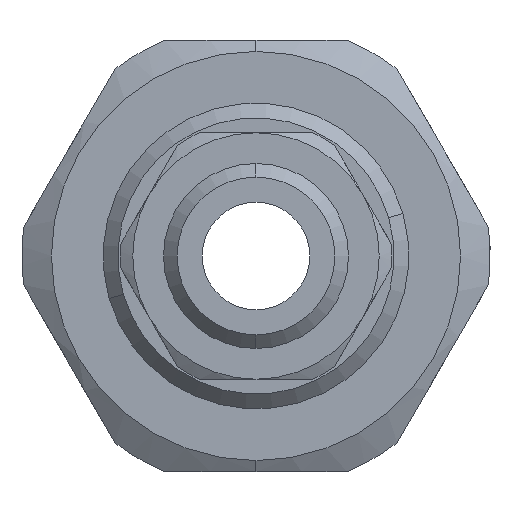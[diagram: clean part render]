
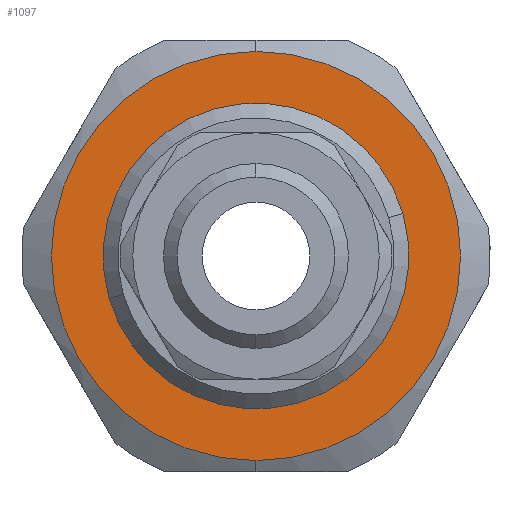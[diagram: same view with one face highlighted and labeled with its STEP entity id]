
A CAD part, left-side view. The second image highlights one B-rep face of the part: STEP entity #1097.
In plain terms, the highlighted planar face has unit normal (-1, 0, 0).
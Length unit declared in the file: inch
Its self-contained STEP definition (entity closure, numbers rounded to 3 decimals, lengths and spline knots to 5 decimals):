
#413 = ORIENTED_EDGE ( 'NONE', *, *, #2706, .T. ) ;
#415 = ORIENTED_EDGE ( 'NONE', *, *, #2707, .F. ) ;
#416 = ORIENTED_EDGE ( 'NONE', *, *, #3959, .T. ) ;
#417 = ORIENTED_EDGE ( 'NONE', *, *, #1700, .F. ) ;
#543 = CARTESIAN_POINT ( 'NONE',  ( 0.47156, -1.1499, 0.57971 ) ) ;
#544 = DIRECTION ( 'NONE',  ( -1., 0., 0. ) ) ;
#545 = DIRECTION ( 'NONE',  ( 0., 0., 1. ) ) ;
#579 = CARTESIAN_POINT ( 'NONE',  ( 0.47156, -1.1499, 0.57971 ) ) ;
#580 = DIRECTION ( 'NONE',  ( -1., 0., 0. ) ) ;
#581 = DIRECTION ( 'NONE',  ( 0., 0., 1. ) ) ;
#741 = AXIS2_PLACEMENT_3D ( 'NONE', #543, #544, #545 ) ;
#832 = AXIS2_PLACEMENT_3D ( 'NONE', #2457, #2464, #2465 ) ;
#906 = CIRCLE ( 'NONE', #741, 0.31 ) ;
#1097 = ADVANCED_FACE ( 'NONE', ( #2461, #2443 ), #2462, .T. ) ;
#1323 = EDGE_LOOP ( 'NONE', ( #413, #416 ) ) ;
#1700 = EDGE_CURVE ( 'NONE', #2804, #2541, #906, .T. ) ;
#2284 = CARTESIAN_POINT ( 'NONE',  ( 0.47156, -1.1499, 0.57971 ) ) ;
#2285 = DIRECTION ( 'NONE',  ( -1., 0., 0. ) ) ;
#2286 = DIRECTION ( 'NONE',  ( 0., 0., 1. ) ) ;
#2287 = CARTESIAN_POINT ( 'NONE',  ( 0.47156, -1.1499, 0.57971 ) ) ;
#2288 = DIRECTION ( 'NONE',  ( -1., 0., 0. ) ) ;
#2289 = DIRECTION ( 'NONE',  ( 0., 0., 1. ) ) ;
#2443 = FACE_BOUND ( 'NONE', #3554, .T. ) ;
#2457 = CARTESIAN_POINT ( 'NONE',  ( 0.47156, -1.1499, 0.57971 ) ) ;
#2461 = FACE_OUTER_BOUND ( 'NONE', #1323, .T. ) ;
#2462 = PLANE ( 'NONE',  #832 ) ;
#2464 = DIRECTION ( 'NONE',  ( -1., 0., 0. ) ) ;
#2465 = DIRECTION ( 'NONE',  ( 0., 0., 1. ) ) ;
#2541 = VERTEX_POINT ( 'NONE', #3022 ) ;
#2553 = VERTEX_POINT ( 'NONE', #3034 ) ;
#2566 = VERTEX_POINT ( 'NONE', #3047 ) ;
#2706 = EDGE_CURVE ( 'NONE', #2566, #2553, #3901, .T. ) ;
#2707 = EDGE_CURVE ( 'NONE', #2541, #2804, #3880, .T. ) ;
#2804 = VERTEX_POINT ( 'NONE', #3254 ) ;
#3022 = CARTESIAN_POINT ( 'NONE',  ( 0.47156, -0.85206, 0.49373 ) ) ;
#3034 = CARTESIAN_POINT ( 'NONE',  ( 0.47156, -1.1499, 0.16471 ) ) ;
#3047 = CARTESIAN_POINT ( 'NONE',  ( 0.47156, -1.1499, 0.99471 ) ) ;
#3254 = CARTESIAN_POINT ( 'NONE',  ( 0.47156, -1.44774, 0.66568 ) ) ;
#3554 = EDGE_LOOP ( 'NONE', ( #415, #417 ) ) ;
#3880 = CIRCLE ( 'NONE', #3891, 0.31 ) ;
#3891 = AXIS2_PLACEMENT_3D ( 'NONE', #2287, #2288, #2289 ) ;
#3901 = CIRCLE ( 'NONE', #3921, 0.415 ) ;
#3913 = CIRCLE ( 'NONE', #3940, 0.415 ) ;
#3921 = AXIS2_PLACEMENT_3D ( 'NONE', #2284, #2285, #2286 ) ;
#3940 = AXIS2_PLACEMENT_3D ( 'NONE', #579, #580, #581 ) ;
#3959 = EDGE_CURVE ( 'NONE', #2553, #2566, #3913, .T. ) ;
